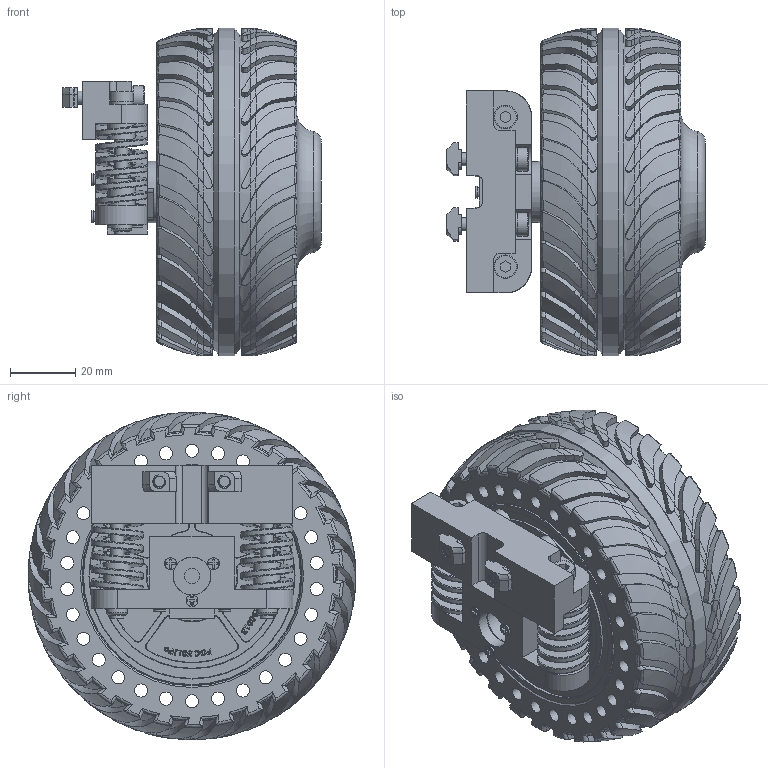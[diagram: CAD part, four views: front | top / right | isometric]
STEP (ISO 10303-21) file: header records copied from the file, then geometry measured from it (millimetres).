
FILE_DESCRIPTION(/* description */ (''),/* implementation_level */ '2;1');
FILE_NAME(/* name */ 'UGV Suspension (A).step',/* time_stamp */ '2024-07-30T17:21:01+08:00',/* author */ (''),/* organization */ (''),/* preprocessor_version */ 'ST-DEVELOPER v20',/* originating_system */ 'Autodesk Translation Framework v13.14.0.145',/* authorisation */ '');
FILE_SCHEMA (('AUTOMOTIVE_DESIGN { 1 0 10303 214 3 1 1 }'));
Products named in the file (17): UGV Suspension (A); S115-A V2; S115-B; S115-C; Document; 黑色金属杯头内六角螺丝M
4_40 v1; DIN985 M4 FIBER SOMUN; 黑色金属杯头内六角螺丝M
4_5 v1; M4 T-Nut for 2020 extrusion; M4 T-Nut for 2020 extrusion_1; M4 T-Nut for 2020 extrusion_1_1; 黑色金属沉头螺丝 KM2.5*8; DDSM115; M0601C; ÖÎ¾ßÑ¹»·-20220718; M2.5-8; BM.SJ.AA00037.01
Assembly tree (28 placements, depth 3):
  UGV Suspension (A)
    S115-A V2
    S115-B
    S115-C
    Document
    黑色金属杯头内六角螺丝M
4_40 v1  x2
    DIN985 M4 FIBER SOMUN  x2
    黑色金属杯头内六角螺丝M
4_5 v1  x2
    M4 T-Nut for 2020 extrusion
      M4 T-Nut for 2020 extrusion_1_1
    M4 T-Nut for 2020 extrusion_1
      M4 T-Nut for 2020 extrusion_1_1
    黑色金属沉头螺丝 KM2.5*8  x7
    DDSM115
      M0601C
      ÖÎ¾ßÑ¹»·-20220718
      M2.5-8  x3
      BM.SJ.AA00037.01
Bounding box: 79.35 x 100.7 x 100.7 mm (x, y, z)
Volume: 345773.9 mm3; surface area: 99617.7 mm2
Topology: 26 solids, 33 shells, 2616 faces, 6776 edges, 4320 vertices
Faces by surface type: bspline 976, plane 580, cylinder 435, torus 340, cone 165, sphere 120
Full cylindrical faces by diameter (mm): 1.567 x3, 2.05 x11, 2.5 x13, 2.8 x3, 3 x2, 3.1 x2, 3.3 x6, 3.678 x7, 4 x40, 4.109 x10, 4.2 x3, 4.6 x3, 4.8 x1, 5 x1, 6 x3, 6.4 x2, 6.9 x4, 7.22 x4, 8.4 x4, 10 x1, 11.6 x2, 12 x2, 18.5 x1, 19 x1, 20.4 x1, 21.4 x1, 57 x1, 62.7 x1, 63 x1, 64.7 x1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
Entity records: 191475 total; most frequent: CARTESIAN_POINT 145245, ORIENTED_EDGE 11122, DIRECTION 6970, EDGE_CURVE 5563, VERTEX_POINT 3575, AXIS2_PLACEMENT_3D 2657, B_SPLINE_CURVE_WITH_KNOTS 2511, EDGE_LOOP 2298
